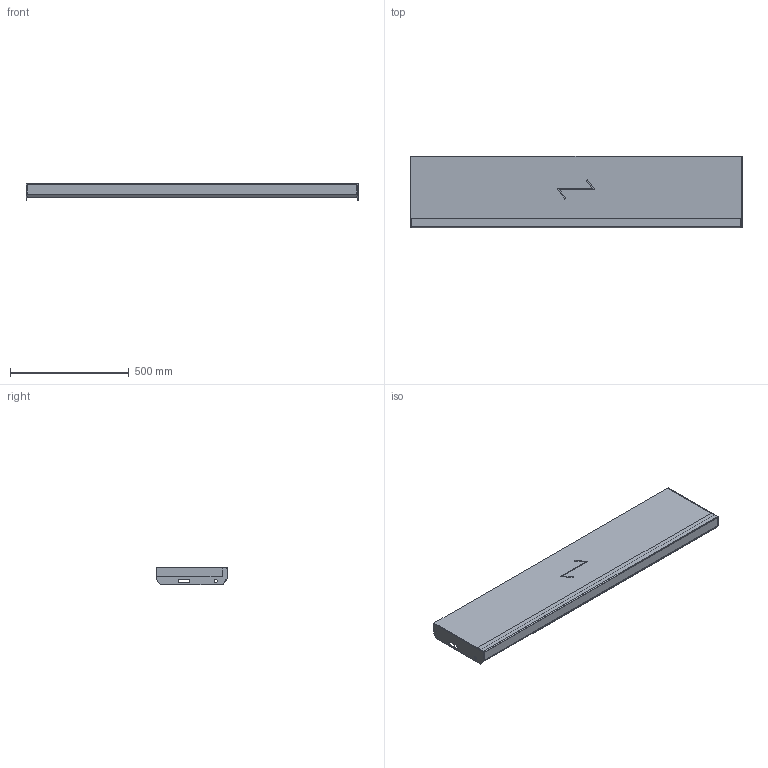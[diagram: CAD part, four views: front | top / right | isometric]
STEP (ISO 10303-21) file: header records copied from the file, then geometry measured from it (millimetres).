
FILE_DESCRIPTION (( 'STEP AP203' ), '1' );
FILE_NAME ('StegTH6-S-nya_steget-1400x300.STEP', '2020-03-04T07:46:41', ( '' ), ( '' ), 'SwSTEP 2.0', 'SolidWorks 2019', '' );
FILE_SCHEMA (( 'CONFIG_CONTROL_DESIGN' ));
Length unit declared in the file: millimetre
Products named in the file (5): SW0000039010; SW0000039257; StegTH6-S-nya_steget-1400x300; SW0000039693; SW0000038703
Assembly tree (5 placements, depth 3):
  StegTH6-S-nya_steget-1400x300
    SW0000039693
      SW0000039010
      SW0000039257
      SW0000038703  x2
Bounding box: 1400 x 300 x 72 mm (x, y, z)
Volume: 13906880.6 mm3; surface area: 1253108.9 mm2
Topology: 4 solids, 4 shells, 67 faces, 158 edges, 100 vertices
Faces by surface type: plane 51, cylinder 16
Entity records: 2002 total; most frequent: DIRECTION 261, CARTESIAN_POINT 254, ORIENTED_EDGE 238, EDGE_CURVE 119, LINE 99, VECTOR 99, AXIS2_PLACEMENT_3D 81, VERTEX_POINT 74
